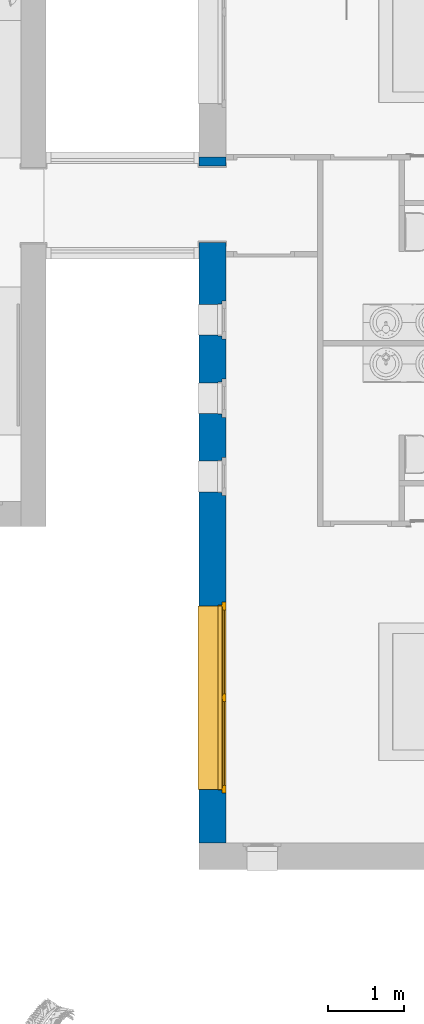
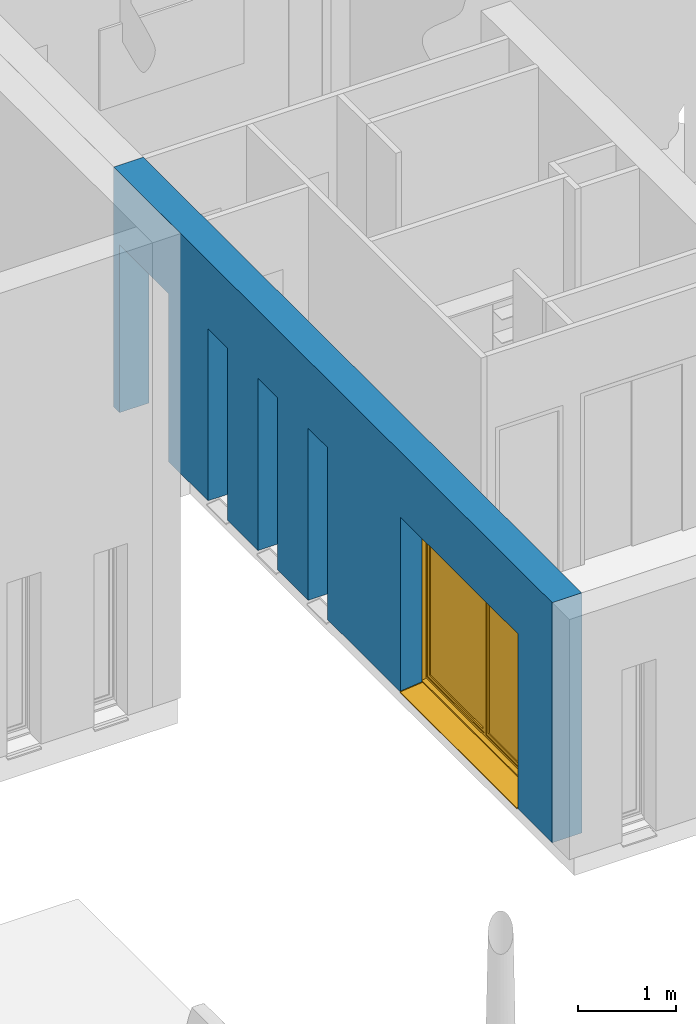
# One storey, part 7 of 40: 1 wall, 1 window, 5 openings.
"""IFC2X3 building model written with IfcOpenShell, lengths in metres."""

from ifc_helpers import new_model, entity, si_unit, converted_unit, derived_unit, direction, frame, frame_2d, origin, place, context, subcontext, project, spatial, rectangle, extrude, faceted_brep, source, transform, mapped, material, material_list, layer, layer_set, layer_usage, type_object, type_shapes, element, fill, save


model = new_model("IFC2X3")

# Units and contexts
model_context = context("Model", 3, precision=1e-05, world=origin(), true_north=direction((6.12303176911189e-17, 1.0)))
body_context = subcontext(model_context, "Body", "Model", "MODEL_VIEW")
ifc_project = project(units=[si_unit("LENGTHUNIT", "METRE"), si_unit("AREAUNIT", "SQUARE_METRE"), si_unit("VOLUMEUNIT", "CUBIC_METRE"), converted_unit("PLANEANGLEUNIT", "DEGREE", entity("IfcRatioMeasure", 0.0174532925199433), si_unit("PLANEANGLEUNIT", "RADIAN"), dimensions=[0, 0, 0, 0, 0, 0, 0]), si_unit("MASSUNIT", "GRAM", prefix="KILO"), derived_unit("MASSDENSITYUNIT", [(si_unit("MASSUNIT", "GRAM", prefix="KILO"), 1), (si_unit("LENGTHUNIT", "METRE"), -3)]), si_unit("TIMEUNIT", "SECOND"), si_unit("FREQUENCYUNIT", "HERTZ"), si_unit("THERMODYNAMICTEMPERATUREUNIT", "DEGREE_CELSIUS"), derived_unit("THERMALTRANSMITTANCEUNIT", [(si_unit("MASSUNIT", "GRAM", prefix="KILO"), 1), (si_unit("THERMODYNAMICTEMPERATUREUNIT", "KELVIN"), -1), (si_unit("TIMEUNIT", "SECOND"), -3)]), derived_unit("VOLUMETRICFLOWRATEUNIT", [(si_unit("LENGTHUNIT", "METRE"), 3), (si_unit("TIMEUNIT", "SECOND"), -1)]), si_unit("ELECTRICCURRENTUNIT", "AMPERE"), si_unit("ELECTRICVOLTAGEUNIT", "VOLT"), si_unit("POWERUNIT", "WATT"), si_unit("FORCEUNIT", "NEWTON", prefix="KILO"), si_unit("ILLUMINANCEUNIT", "LUX"), si_unit("LUMINOUSFLUXUNIT", "LUMEN"), si_unit("LUMINOUSINTENSITYUNIT", "CANDELA"), derived_unit("USERDEFINED", [(si_unit("MASSUNIT", "GRAM", prefix="KILO"), -1), (si_unit("LENGTHUNIT", "METRE"), -2), (si_unit("TIMEUNIT", "SECOND"), 3), (si_unit("LUMINOUSFLUXUNIT", "LUMEN"), 1)]), derived_unit("LINEARVELOCITYUNIT", [(si_unit("LENGTHUNIT", "METRE"), 1), (si_unit("TIMEUNIT", "SECOND"), -1)]), si_unit("PRESSUREUNIT", "PASCAL"), derived_unit("USERDEFINED", [(si_unit("LENGTHUNIT", "METRE"), -2), (si_unit("MASSUNIT", "GRAM", prefix="KILO"), 1), (si_unit("TIMEUNIT", "SECOND"), -2)])], contexts=[model_context])

# Site, building, storey
site_placement = place(None, origin())
site = spatial("IfcSite", under=ifc_project, at=site_placement, Name="Surface", CompositionType="ELEMENT")
building_placement = place(site_placement, origin())
building = spatial("IfcBuilding", under=site, at=building_placement, CompositionType="ELEMENT")
storey_placement = place(building_placement, origin())
storey = spatial("IfcBuildingStorey", under=building, at=storey_placement, Name="RDC", CompositionType="ELEMENT", Elevation=-1.0941605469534e-13)

# Wall, openings, window
ifc_material_1 = material(Name="Bardage bois")
ifc_layer_1 = layer(ifc_material_1, 0.01)
ifc_material_2 = material(Name="Maçonnerie - Isolant")
ifc_layer_2 = layer(ifc_material_2, 0.12)
ifc_material_3 = material(Name="Blocs béton manufacturés")
ifc_layer_3 = layer(ifc_material_3, 0.2)
ifc_material_4 = material(Name="Par défaut")
ifc_layer_4 = layer(ifc_material_4, 0.01)
ifc_material_5 = material(Name="Plâtre")
ifc_layer_5 = layer(ifc_material_5, 0.01)
ifc_layer_set = layer_set([ifc_layer_1, ifc_layer_2, ifc_layer_3, ifc_layer_4, ifc_layer_5], Name="Mur de base:M8 Ext. Bois 2 + Isolant 12 +  BBMC 20 + vide 1 + ba13")
ifc_layer_usage = layer_usage(ifc_layer_set, "AXIS2", "NEGATIVE", 0.175)
wall_type = type_object("IfcWallType", Name="Mur de base:M8 Ext. Bois 2 + Isolant 12 +  BBMC 20 + vide 1 + ba13", PredefinedType="STANDARD", material=ifc_layer_set)
wall_placement = place(storey_placement, frame((11.9725111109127, -4.66298932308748, 0.0), z_axis=(0.0, 0.0, 1.0), x_axis=(0.0, 1.0, 0.0)))
wall = element("IfcWallStandardCase", 1, at=wall_placement, inside=storey, type_object=wall_type, material=ifc_layer_usage, Name="Mur de base:M8 Ext. Bois 2 + Isolant 12 +  BBMC 20 + vide 1 + ba13", ObjectType="Mur de base:M8 Ext. Bois 2 + Isolant 12 +  BBMC 20 + vide 1 + ba13", context=body_context, shape_type="SweptSolid", body=[
    extrude(rectangle(XDim=8.97499999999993, YDim=0.349999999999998, at=frame_2d((4.48749999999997, -1.94289029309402e-16), x_axis=(-1.0, 0.0))), origin(), (0.0, 0.0, 1.0), 2.99999999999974),
])
opening_1_placement = place(wall_placement, frame((7.85749999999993, -0.175000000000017, 0.0)))
element("IfcOpeningElement", 2, at=opening_1_placement, cuts=wall, Name="Ouverture en rectangle:Ouverture en rectangle:1", ObjectType="Opening", context=body_context, shape_type="SweptSolid", body=[
    extrude(rectangle(XDim=2.09999999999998, YDim=1.0, at=frame_2d((1.04999999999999, 0.5), x_axis=(1.0, 0.0))), frame((0.0, 0.0, 0.0), z_axis=(0.0, 1.0, 0.0), x_axis=(0.0, 0.0, 1.0)), (0.0, 0.0, 1.0), 0.35),
])
opening_2_placement = place(wall_placement, frame((6.59499999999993, 0.499999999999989, -0.0775370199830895), z_axis=(0.0, 0.0, 1.0), x_axis=(0.0, -1.0, 0.0)))
element("IfcOpeningElement", 3, at=opening_2_placement, cuts=wall, Name="Mur de base:M8 Ext. Bois 2 + Isolant 12 +  BBMC 20 + vide 1 + ba13", ObjectType="Opening", context=body_context, shape_type="Brep", body=[
    faceted_brep([(0.595000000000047, 0.0499999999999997, 0.077537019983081), (0.574999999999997, 0.0499999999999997, 0.077537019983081), (0.574999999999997, 0.0499999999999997, 2.22753701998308), (0.0, 0.0500000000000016, 2.22753701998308), (0.0, 0.0500000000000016, 0.0), (0.595000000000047, 0.0499999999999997, 0.062537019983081), (1.0, 0.449999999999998, 0.077537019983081), (0.675000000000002, 0.45, 0.077537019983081), (0.675000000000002, 0.45, 2.22753701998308), (1.0, 0.449999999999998, 2.22753701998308), (1.0, 0.0499999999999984, 0.077537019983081), (0.675, 0.0499999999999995, 0.077537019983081), (0.675, 0.0, 0.077537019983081), (0.625000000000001, 0.0, 0.077537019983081), (0.625000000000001, 0.0399999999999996, 0.077537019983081), (0.574999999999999, 0.0399999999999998, 0.077537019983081), (0.595000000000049, 0.45, 0.077537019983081), (0.574999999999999, 0.45, 0.0775370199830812), (0.574999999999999, 0.46, 0.077537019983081), (0.625000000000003, 0.46, 0.077537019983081), (0.625000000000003, 0.499999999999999, 0.077537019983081), (0.675000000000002, 0.499999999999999, 0.077537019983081), (1.0, 0.0499999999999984, 2.22753701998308), (0.574999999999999, 0.45, 2.22753701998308), (0.0, 0.450000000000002, 2.22753701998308), (0.0, 0.450000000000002, 0.0), (0.595000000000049, 0.45, 0.062537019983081), (0.675, 0.0, 2.27753701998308), (0.625000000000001, 0.0, 2.27753701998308), (0.625000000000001, 0.499999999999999, 2.27753701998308), (0.625000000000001, 0.46, 2.23753701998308), (0.625000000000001, 0.0399999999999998, 2.23753701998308), (0.574999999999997, 0.0399999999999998, 2.23753701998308), (0.574999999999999, 0.46, 2.23753701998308), (0.675, 0.0499999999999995, 2.22753701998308), (0.675, 0.499999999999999, 2.27753701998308)], [[[0, 1, 2, 3, 4, 5]], [[6, 7, 8, 9]], [[10, 11, 12, 13, 14, 15, 1, 0, 16, 17, 18, 19, 20, 21, 7, 6]], [[10, 6, 9, 22]], [[3, 2, 23, 24]], [[3, 24, 25, 4]], [[4, 25, 26, 5]], [[5, 26, 16, 0]], [[12, 27, 28, 13]], [[13, 28, 29, 20, 19, 30, 31, 14]], [[14, 31, 32, 15]], [[15, 32, 33, 18, 17, 23, 2, 1]], [[11, 34, 8, 7, 21, 35, 27, 12]], [[27, 35, 29, 28]], [[30, 33, 32, 31]], [[29, 35, 21, 20]], [[19, 18, 33, 30]], [[9, 8, 34, 22]], [[24, 23, 17, 16, 26, 25]], [[22, 34, 11, 10]]]),
])
opening_3_placement = place(wall_placement, frame((5.56999999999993, 0.499999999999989, -0.0775370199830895), z_axis=(0.0, 0.0, 1.0), x_axis=(0.0, -1.0, 0.0)))
element("IfcOpeningElement", 4, at=opening_3_placement, cuts=wall, Name="Mur de base:M8 Ext. Bois 2 + Isolant 12 +  BBMC 20 + vide 1 + ba13", ObjectType="Opening", context=body_context, shape_type="Brep", body=[
    faceted_brep([(0.595000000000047, 0.0499999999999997, 0.077537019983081), (0.574999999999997, 0.0499999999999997, 0.077537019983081), (0.574999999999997, 0.0499999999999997, 2.22753701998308), (0.0, 0.0500000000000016, 2.22753701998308), (0.0, 0.0500000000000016, 0.0), (0.595000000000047, 0.0499999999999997, 0.062537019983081), (1.0, 0.449999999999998, 0.077537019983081), (0.675000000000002, 0.45, 0.077537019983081), (0.675000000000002, 0.45, 2.22753701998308), (1.0, 0.449999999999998, 2.22753701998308), (1.0, 0.0499999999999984, 0.077537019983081), (0.675, 0.0499999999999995, 0.077537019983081), (0.675, 0.0, 0.077537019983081), (0.625000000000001, 0.0, 0.077537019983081), (0.625000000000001, 0.0399999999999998, 0.077537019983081), (0.574999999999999, 0.04, 0.077537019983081), (0.595000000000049, 0.45, 0.077537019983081), (0.574999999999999, 0.45, 0.0775370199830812), (0.574999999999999, 0.46, 0.077537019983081), (0.625000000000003, 0.46, 0.077537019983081), (0.625000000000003, 0.499999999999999, 0.077537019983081), (0.675000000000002, 0.499999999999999, 0.077537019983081), (1.0, 0.0499999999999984, 2.22753701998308), (0.574999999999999, 0.45, 2.22753701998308), (0.0, 0.450000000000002, 2.22753701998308), (0.0, 0.450000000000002, 0.0), (0.595000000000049, 0.45, 0.062537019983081), (0.675, 0.0, 2.27753701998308), (0.625000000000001, 0.0, 2.27753701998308), (0.625000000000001, 0.499999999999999, 2.27753701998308), (0.625000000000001, 0.46, 2.23753701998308), (0.625000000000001, 0.04, 2.23753701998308), (0.574999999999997, 0.0399999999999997, 2.23753701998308), (0.574999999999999, 0.46, 2.23753701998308), (0.675, 0.0499999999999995, 2.22753701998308), (0.675, 0.499999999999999, 2.27753701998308)], [[[0, 1, 2, 3, 4, 5]], [[6, 7, 8, 9]], [[10, 11, 12, 13, 14, 15, 1, 0, 16, 17, 18, 19, 20, 21, 7, 6]], [[10, 6, 9, 22]], [[3, 2, 23, 24]], [[3, 24, 25, 4]], [[4, 25, 26, 5]], [[5, 26, 16, 0]], [[12, 27, 28, 13]], [[13, 28, 29, 20, 19, 30, 31, 14]], [[14, 31, 32, 15]], [[15, 32, 33, 18, 17, 23, 2, 1]], [[11, 34, 8, 7, 21, 35, 27, 12]], [[27, 35, 29, 28]], [[30, 33, 32, 31]], [[29, 35, 21, 20]], [[19, 18, 33, 30]], [[9, 8, 34, 22]], [[24, 23, 17, 16, 26, 25]], [[22, 34, 11, 10]]]),
])
opening_4_placement = place(wall_placement, frame((4.54499999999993, 0.499999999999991, -0.0775370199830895), z_axis=(0.0, 0.0, 1.0), x_axis=(0.0, -1.0, 0.0)))
element("IfcOpeningElement", 5, at=opening_4_placement, cuts=wall, Name="Mur de base:M8 Ext. Bois 2 + Isolant 12 +  BBMC 20 + vide 1 + ba13", ObjectType="Opening", context=body_context, shape_type="Brep", body=[
    faceted_brep([(0.595000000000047, 0.0499999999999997, 0.077537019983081), (0.574999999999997, 0.0499999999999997, 0.077537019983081), (0.574999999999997, 0.0499999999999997, 2.22753701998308), (0.0, 0.0500000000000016, 2.22753701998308), (0.0, 0.0500000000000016, 0.0), (0.595000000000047, 0.0499999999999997, 0.062537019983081), (1.0, 0.449999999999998, 0.077537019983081), (0.675000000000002, 0.45, 0.077537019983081), (0.675000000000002, 0.45, 2.22753701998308), (1.0, 0.449999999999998, 2.22753701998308), (1.0, 0.0499999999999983, 0.077537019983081), (0.675, 0.0499999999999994, 0.077537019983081), (0.675, 0.0, 0.077537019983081), (0.625000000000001, 0.0, 0.077537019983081), (0.625000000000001, 0.0399999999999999, 0.077537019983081), (0.574999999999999, 0.04, 0.077537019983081), (0.595000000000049, 0.45, 0.077537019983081), (0.574999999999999, 0.45, 0.0775370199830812), (0.574999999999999, 0.46, 0.077537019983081), (0.625000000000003, 0.46, 0.077537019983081), (0.625000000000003, 0.499999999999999, 0.077537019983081), (0.675000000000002, 0.499999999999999, 0.077537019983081), (1.0, 0.0499999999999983, 2.22753701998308), (0.574999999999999, 0.45, 2.22753701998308), (0.0, 0.450000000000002, 2.22753701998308), (0.0, 0.450000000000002, 0.0), (0.595000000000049, 0.45, 0.062537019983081), (0.675, 0.0, 2.27753701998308), (0.625000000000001, 0.0, 2.27753701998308), (0.625000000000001, 0.499999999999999, 2.27753701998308), (0.625000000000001, 0.46, 2.23753701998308), (0.625000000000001, 0.04, 2.23753701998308), (0.574999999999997, 0.0399999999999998, 2.23753701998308), (0.574999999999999, 0.46, 2.23753701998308), (0.675, 0.0499999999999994, 2.22753701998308), (0.675, 0.499999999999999, 2.27753701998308)], [[[0, 1, 2, 3, 4, 5]], [[6, 7, 8, 9]], [[10, 11, 12, 13, 14, 15, 1, 0, 16, 17, 18, 19, 20, 21, 7, 6]], [[10, 6, 9, 22]], [[3, 2, 23, 24]], [[3, 24, 25, 4]], [[4, 25, 26, 5]], [[5, 26, 16, 0]], [[12, 27, 28, 13]], [[13, 28, 29, 20, 19, 30, 31, 14]], [[14, 31, 32, 15]], [[15, 32, 33, 18, 17, 23, 2, 1]], [[11, 34, 8, 7, 21, 35, 27, 12]], [[27, 35, 29, 28]], [[30, 33, 32, 31]], [[29, 35, 21, 20]], [[19, 18, 33, 30]], [[9, 8, 34, 22]], [[24, 23, 17, 16, 26, 25]], [[22, 34, 11, 10]]]),
])
opening_5_placement = place(wall_placement, frame((0.650000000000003, 0.499999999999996, 0.0), z_axis=(0.0, 0.0, 1.0), x_axis=(0.0, -1.0, 0.0)))
opening_5 = element("IfcOpeningElement", 6, at=opening_5_placement, cuts=wall, Name="Mur de base:M8 Ext. Bois 2 + Isolant 12 +  BBMC 20 + vide 1 + ba13", ObjectType="Opening", context=body_context, shape_type="Brep", body=[
    faceted_brep([(0.594999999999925, 2.45, 0.0350000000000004), (0.261997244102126, 2.45, 0.0), (0.0, 2.45, 0.0), (0.0, 2.45, 2.185), (0.575000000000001, 2.45, 2.185), (0.575000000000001, 2.45, 0.0350000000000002), (1.0, 0.0500000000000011, 0.0350000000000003), (1.0, 0.0500000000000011, 2.185), (0.674999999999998, 0.0500000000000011, 2.185), (0.674999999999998, 0.0500000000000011, 0.0350000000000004), (1.0, 2.45, 0.0350000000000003), (0.674999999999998, 0.0, 0.0350000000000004), (0.624999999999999, 0.0, 0.0350000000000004), (0.624999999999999, 0.0399999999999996, 0.0350000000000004), (0.574999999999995, 0.0400000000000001, 0.0350000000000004), (0.574999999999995, 0.05, 0.0350000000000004), (0.594999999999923, 0.0500000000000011, 0.0350000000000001), (0.574999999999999, 2.46, 0.0350000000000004), (0.625000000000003, 2.46, 0.0350000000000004), (0.625000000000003, 2.5, 0.0350000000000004), (0.675000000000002, 2.5, 0.0350000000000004), (0.675000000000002, 2.45, 0.0350000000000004), (1.0, 2.45, 2.185), (0.675000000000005, 2.45, 2.185), (0.0, 0.0500000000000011, 0.0), (0.0, 0.0500000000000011, 2.185), (0.261997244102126, 0.0500000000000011, 0.0), (0.625000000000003, 2.5, 2.235), (0.675000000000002, 2.5, 2.235), (0.625000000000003, 2.46, 2.195), (0.624999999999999, 0.0400000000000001, 2.195), (0.624999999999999, 0.0, 2.235), (0.575000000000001, 2.46, 2.195), (0.574999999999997, 0.0500000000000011, 2.185), (0.574999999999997, 0.0400000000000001, 2.195), (0.674999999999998, 0.0, 2.235)], [[[0, 1, 2, 3, 4, 5]], [[6, 7, 8, 9]], [[10, 6, 9, 11, 12, 13, 14, 15, 16, 0, 5, 17, 18, 19, 20, 21]], [[10, 22, 7, 6]], [[7, 22, 23, 8]], [[3, 2, 24, 25]], [[2, 1, 26, 24]], [[1, 0, 16, 26]], [[20, 19, 27, 28]], [[19, 18, 29, 30, 13, 12, 31, 27]], [[18, 17, 32, 29]], [[17, 5, 4, 33, 15, 14, 34, 32]], [[21, 20, 28, 35, 11, 9, 8, 23]], [[28, 27, 31, 35]], [[30, 29, 32, 34]], [[31, 12, 11, 35]], [[13, 30, 34, 14]], [[3, 25, 33, 4]], [[25, 24, 26, 16, 15, 33]], [[22, 10, 21, 23]]]),
])
ifc_material_6 = material(Name="Fenêtre - Appui")
ifc_material_7 = material(Name="Fenêtre - Cadre")
ifc_material_8 = material(Name="Fenêtre - Vitrage")
ifc_material_list_1 = material_list([ifc_material_6, ifc_material_7, ifc_material_8])
ifc_material_list_2 = material_list([ifc_material_6, ifc_material_7, ifc_material_8])
window_style = type_object("IfcWindowStyle", Name="2.40m x 2.15m", ConstructionType="NOTDEFINED", OperationType="DOUBLE_PANEL_VERTICAL", ParameterTakesPrecedence=False, Sizeable=False, material=ifc_material_list_2)
shared_shape = source(origin(), body_context, "Body", "Brep", [
    faceted_brep([(0.0500000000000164, 0.0350288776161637, 0.0108229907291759), (0.0500000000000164, 0.0350288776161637, -0.000255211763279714), (0.0500000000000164, 0.0300288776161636, 0.000270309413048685), (0.0500000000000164, 0.0300288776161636, 0.00609330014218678), (0.0500000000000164, -0.244999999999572, 0.0349999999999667), (0.0500000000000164, -0.244999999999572, 0.0499999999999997), (0.0500000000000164, -0.239999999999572, 0.0499999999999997), (0.0500000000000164, -0.239999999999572, 0.0397296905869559), (2.45000000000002, 0.0350288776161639, 0.0108229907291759), (2.45000000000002, -0.239999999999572, 0.0397296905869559), (2.45000000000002, -0.239999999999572, 0.0499999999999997), (2.45000000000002, -0.244999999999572, 0.0499999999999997), (2.45000000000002, -0.244999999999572, 0.0349999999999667), (2.45000000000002, 0.0300288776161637, 0.00609330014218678), (2.45000000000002, 0.0300288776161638, 0.000270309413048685), (2.45000000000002, 0.0350288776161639, -0.000255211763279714)], [[[0, 1, 2, 3, 4, 5, 6, 7]], [[8, 9, 10, 11, 12, 13, 14, 15]], [[7, 9, 8, 0]], [[6, 10, 9, 7]], [[5, 11, 10, 6]], [[4, 12, 11, 5]], [[3, 13, 12, 4]], [[2, 14, 13, 3]], [[1, 15, 14, 2]], [[0, 8, 15, 1]]]),
    faceted_brep([(2.45000000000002, 0.0340014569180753, 0.0149254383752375), (2.45000000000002, 0.0314469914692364, 0.0162270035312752), (2.45000000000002, -0.23999999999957, 0.0447572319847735), (2.45000000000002, -0.23999999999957, 0.0397296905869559), (2.45000000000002, 0.0350288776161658, 0.0108229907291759), (2.45000000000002, 0.0350288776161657, 0.0122489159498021), (2.44500000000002, 0.0314469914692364, 0.0162270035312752), (2.44500000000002, 0.0340014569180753, 0.0149254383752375), (2.44500000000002, 0.0350288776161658, 0.0122489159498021), (2.44500000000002, 0.0350288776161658, 0.0108229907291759), (2.44500000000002, -0.23999999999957, 0.0397296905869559), (2.44500000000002, -0.23999999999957, 0.0447572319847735)], [[[0, 1, 2, 3, 4, 5]], [[6, 7, 8, 9, 10, 11]], [[9, 4, 3, 10]], [[10, 3, 2, 11]], [[11, 2, 1, 6]], [[0, 7, 6, 1]], [[5, 8, 7, 0]], [[8, 5, 4, 9]]]),
    faceted_brep([(0.0550000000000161, 0.0340014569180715, 0.0149254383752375), (0.0550000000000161, 0.0314469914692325, 0.0162270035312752), (0.0550000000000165, -0.239999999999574, 0.0447572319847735), (0.0550000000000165, -0.239999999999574, 0.0397296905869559), (0.0550000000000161, 0.0350288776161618, 0.0108229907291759), (0.0550000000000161, 0.0350288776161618, 0.0122489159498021), (0.0500000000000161, 0.0314469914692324, 0.0162270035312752), (0.0500000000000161, 0.0340014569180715, 0.0149254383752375), (0.0500000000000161, 0.0350288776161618, 0.0122489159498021), (0.0500000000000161, 0.0350288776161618, 0.0108229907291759), (0.0500000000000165, -0.239999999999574, 0.0397296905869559), (0.0500000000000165, -0.239999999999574, 0.0447572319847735)], [[[0, 1, 2, 3, 4, 5]], [[6, 7, 8, 9, 10, 11]], [[9, 4, 3, 10]], [[10, 3, 2, 11]], [[11, 2, 1, 6]], [[0, 7, 6, 1]], [[5, 8, 7, 0]], [[8, 5, 4, 9]]]),
    faceted_brep([(1.25000000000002, -0.284999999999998, 2.185), (1.25000000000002, -0.284999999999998, 0.0850000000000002), (1.25000000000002, -0.324999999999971, 0.0849999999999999), (1.25000000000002, -0.324999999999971, 2.185), (2.45000000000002, -0.284999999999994, 0.0849999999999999), (2.45000000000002, -0.324999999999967, 0.085), (2.45000000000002, -0.324999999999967, 2.185), (2.40000000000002, -0.324999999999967, 0.135), (1.30000000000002, -0.324999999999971, 0.135), (1.30000000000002, -0.324999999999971, 2.135), (2.40000000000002, -0.324999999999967, 2.135), (2.45000000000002, -0.284999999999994, 2.185), (1.30000000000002, -0.284999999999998, 0.135), (2.40000000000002, -0.284999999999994, 0.135), (2.40000000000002, -0.284999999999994, 2.135), (1.30000000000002, -0.284999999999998, 2.135)], [[[0, 1, 2, 3]], [[1, 4, 5, 2]], [[2, 5, 6, 3], [7, 8, 9, 10]], [[4, 11, 6, 5]], [[4, 1, 0, 11], [12, 13, 14, 15]], [[9, 8, 12, 15]], [[8, 7, 13, 12]], [[7, 10, 14, 13]], [[11, 0, 3, 6]], [[10, 9, 15, 14]]]),
    faceted_brep([(1.20000000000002, -0.299000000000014, 0.135), (0.100000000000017, -0.299000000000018, 0.135), (0.100000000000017, -0.299000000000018, 2.135), (1.20000000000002, -0.299000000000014, 2.135), (1.20000000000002, -0.311000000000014, 2.135), (1.20000000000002, -0.311000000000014, 0.135), (0.100000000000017, -0.311000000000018, 0.135), (0.100000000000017, -0.311000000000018, 2.135)], [[[0, 1, 2, 3]], [[3, 4, 5, 0]], [[1, 6, 7, 2]], [[0, 5, 6, 1]], [[2, 7, 4, 3]], [[5, 4, 7, 6]]]),
    faceted_brep([(1.30000000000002, -0.299000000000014, 0.135), (1.30000000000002, -0.311000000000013, 0.135), (1.30000000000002, -0.311000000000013, 2.135), (1.30000000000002, -0.299000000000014, 2.135), (2.40000000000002, -0.29900000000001, 0.135), (2.40000000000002, -0.31100000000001, 0.135), (2.40000000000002, -0.29900000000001, 2.135), (2.40000000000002, -0.31100000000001, 2.135)], [[[0, 1, 2, 3]], [[4, 5, 1, 0]], [[6, 7, 5, 4]], [[7, 2, 1, 5]], [[3, 2, 7, 6]], [[6, 4, 0, 3]]]),
    faceted_brep([(1.20000000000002, -0.285000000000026, 2.135), (1.20000000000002, -0.285000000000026, 0.135), (1.20000000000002, -0.325000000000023, 0.135), (1.20000000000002, -0.325000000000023, 2.135), (0.100000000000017, -0.285000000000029, 0.135), (0.100000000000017, -0.325000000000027, 0.135), (0.100000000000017, -0.325000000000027, 2.135), (0.0500000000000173, -0.325000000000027, 0.0850000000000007), (1.25000000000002, -0.325000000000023, 0.0850000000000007), (1.25000000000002, -0.325000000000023, 2.185), (0.0500000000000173, -0.325000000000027, 2.185), (0.100000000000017, -0.285000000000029, 2.135), (1.25000000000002, -0.285000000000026, 0.0850000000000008), (0.0500000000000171, -0.285000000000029, 0.0850000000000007), (0.0500000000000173, -0.285000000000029, 2.185), (1.25000000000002, -0.285000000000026, 2.185)], [[[0, 1, 2, 3]], [[1, 4, 5, 2]], [[2, 5, 6, 3], [7, 8, 9, 10]], [[4, 11, 6, 5]], [[4, 1, 0, 11], [12, 13, 14, 15]], [[9, 8, 12, 15]], [[8, 7, 13, 12]], [[7, 10, 14, 13]], [[11, 0, 3, 6]], [[10, 9, 15, 14]]], outer=[[True], [True], [False, True], [True], [False, True], [True], [True], [True], [True], [True]]),
    faceted_brep([(2.50000000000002, -0.325000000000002, 0.0350000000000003), (0.0, -0.325000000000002, 0.0350000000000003), (0.0, -0.275000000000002, 0.0350000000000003), (0.0500000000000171, -0.275000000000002, 0.0350000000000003), (0.0500000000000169, -0.24500000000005, 0.0350000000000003), (2.45000000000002, -0.245000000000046, 0.0350000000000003), (2.45000000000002, -0.275000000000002, 0.0350000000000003), (2.50000000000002, -0.275000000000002, 0.0350000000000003), (2.50000000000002, -0.275000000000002, 2.235), (2.50000000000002, -0.325000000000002, 2.235), (2.45000000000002, -0.275000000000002, 0.0743761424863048), (0.0500000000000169, -0.275000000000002, 0.0743761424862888), (0.0, -0.275000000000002, 2.235), (2.43500000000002, -0.275000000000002, 2.17), (0.0650000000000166, -0.275000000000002, 2.17), (0.0650000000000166, -0.275000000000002, 0.0999999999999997), (2.43500000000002, -0.275000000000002, 0.0999999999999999), (2.45000000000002, -0.245000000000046, 0.050000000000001), (2.45000000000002, -0.235000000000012, 0.050000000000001), (2.45000000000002, -0.235000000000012, 0.0450000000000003), (2.45000000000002, -0.225000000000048, 0.0450000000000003), (2.45000000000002, -0.225000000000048, 0.060978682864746), (0.0500000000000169, -0.24500000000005, 0.050000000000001), (0.0500000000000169, -0.225000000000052, 0.060978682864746), (0.0500000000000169, -0.225000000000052, 0.0450000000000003), (0.0500000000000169, -0.235000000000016, 0.0450000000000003), (0.0500000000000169, -0.235000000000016, 0.050000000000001), (0.0, -0.325000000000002, 2.235), (0.0500000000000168, -0.325000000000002, 2.185), (2.45000000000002, -0.325000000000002, 2.185), (2.45000000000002, -0.325000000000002, 0.0850000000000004), (0.0500000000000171, -0.325000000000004, 0.0850000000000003), (2.43500000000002, -0.285000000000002, 0.0999999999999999), (2.43500000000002, -0.285000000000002, 2.17), (0.0650000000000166, -0.285000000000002, 0.1), (0.0650000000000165, -0.285000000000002, 2.17), (0.0500000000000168, -0.285000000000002, 2.185), (0.0500000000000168, -0.285000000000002, 0.0850000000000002), (2.45000000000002, -0.285000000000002, 0.0850000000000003), (2.45000000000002, -0.285000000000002, 2.185)], [[[0, 1, 2, 3, 4, 5, 6, 7]], [[7, 8, 9, 0]], [[7, 6, 10, 11, 3, 2, 12, 8], [13, 14, 15, 16]], [[10, 6, 5, 17, 18, 19, 20, 21]], [[5, 4, 22, 17]], [[4, 3, 11, 23, 24, 25, 26, 22]], [[2, 1, 27, 12]], [[0, 9, 27, 1], [28, 29, 30, 31]], [[13, 16, 32, 33]], [[32, 16, 15, 34]], [[35, 34, 15, 14]], [[21, 23, 11, 10]], [[33, 32, 34, 35], [36, 37, 38, 39]], [[38, 30, 29, 39]], [[30, 38, 37, 31]], [[28, 31, 37, 36]], [[20, 24, 23, 21]], [[19, 25, 24, 20]], [[18, 26, 25, 19]], [[17, 22, 26, 18]], [[13, 33, 35, 14]], [[39, 29, 28, 36]], [[12, 27, 9, 8]]], outer=[[True], [True], [True, False], [True], [True], [True], [True], [True, False], [True], [True], [True], [True], [False, True], [True], [True], [True], [True], [True], [True], [True], [True], [True], [True]]),
    faceted_brep([(2.45000000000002, -0.225, 0.0350000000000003), (2.46000000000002, -0.225, 0.0350000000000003), (2.46000000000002, -0.275000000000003, 0.0350000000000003), (2.45000000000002, -0.275000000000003, 0.0350000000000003), (2.45000000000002, -0.275000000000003, 2.185), (2.45000000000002, -0.225, 2.185), (2.46000000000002, -0.275000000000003, 2.195), (0.0400000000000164, -0.275000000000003, 2.195), (0.0400000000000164, -0.275000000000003, 0.0350000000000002), (0.0500000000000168, -0.275000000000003, 0.035), (0.0500000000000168, -0.275000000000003, 2.185), (2.46000000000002, -0.225, 2.195), (0.0500000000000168, -0.225, 2.185), (0.0500000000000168, -0.225, 0.0350000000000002), (0.0400000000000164, -0.225, 0.035), (0.0400000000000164, -0.225, 2.195)], [[[0, 1, 2, 3]], [[3, 4, 5, 0]], [[2, 6, 7, 8, 9, 10, 4, 3]], [[1, 11, 6, 2]], [[0, 5, 12, 13, 14, 15, 11, 1]], [[10, 9, 13, 12]], [[13, 9, 8, 14]], [[15, 14, 8, 7]], [[4, 10, 12, 5]], [[11, 15, 7, 6]]]),
    faceted_brep([(1.23000000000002, -0.277000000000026, 2.17), (1.23000000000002, -0.285000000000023, 2.17), (1.27000000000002, -0.285000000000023, 2.17), (1.27000000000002, -0.277000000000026, 2.17), (1.23000000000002, -0.277000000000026, 0.0999999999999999), (1.27000000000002, -0.277000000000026, 0.0999999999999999), (1.27000000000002, -0.285000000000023, 0.0999999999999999), (1.23000000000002, -0.285000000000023, 0.0999999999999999)], [[[0, 1, 2, 3]], [[4, 5, 6, 7]], [[3, 5, 4, 0]], [[2, 6, 5, 3]], [[1, 7, 6, 2]], [[0, 4, 7, 1]]]),
])
type_shapes(window_style, [shared_shape])
window_placement = place(opening_5_placement, frame((0.349999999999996, 0.0, 0.0), z_axis=(0.0, 0.0, 1.0), x_axis=(0.0, 1.0, 0.0)))
window = element("IfcWindow", 7, at=window_placement, inside=storey, type_object=window_style, material=ifc_material_list_1, Name="PF 2 Vantaux - Droits:2.40m x 2.15m", ObjectType="2.40m x 2.15m", OverallHeight=2.265, OverallWidth=2.5, context=body_context, shape_type="MappedRepresentation", body=[
    mapped(shared_shape, transform((0.0, 0.0, 0.0), scale=1.0)),
])
fill(opening_5, window)

save(model, "model.ifc")
